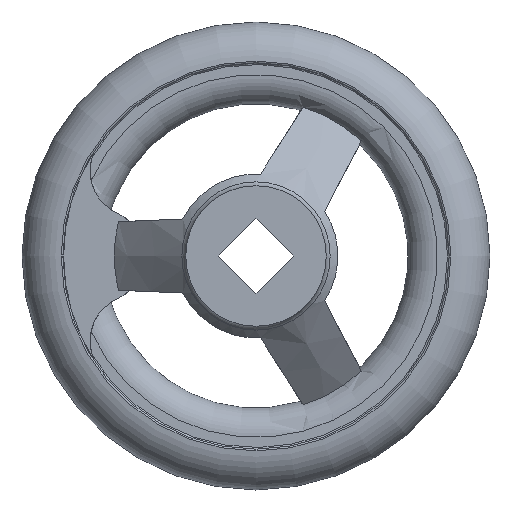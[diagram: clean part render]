
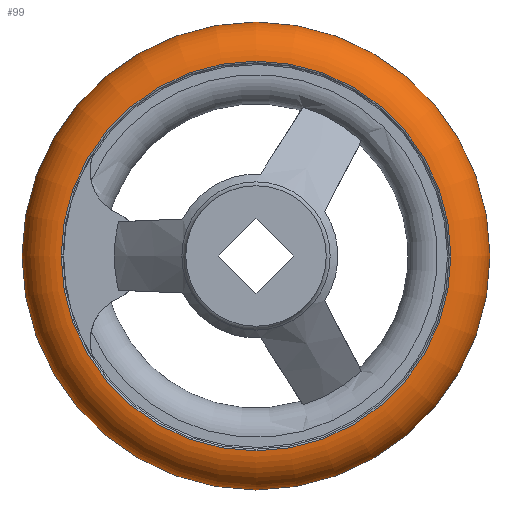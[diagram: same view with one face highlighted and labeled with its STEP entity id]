
A CAD part, left-side view. The second image highlights one B-rep face of the part: STEP entity #99.
In plain terms, the highlighted toroidal (fillet/blend) face has major radius 32.994 mm and minor radius 7.006 mm.
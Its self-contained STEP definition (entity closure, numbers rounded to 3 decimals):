
#99 = ADVANCED_FACE( '', ( #179, #180, #181 ), #182, .T. );
#179 = FACE_BOUND( '', #292, .T. );
#180 = FACE_OUTER_BOUND( '', #293, .T. );
#181 = FACE_OUTER_BOUND( '', #294, .T. );
#182 = TOROIDAL_SURFACE( '', #295, 32.994, 7.006 );
#292 = VERTEX_LOOP( '', #582 );
#293 = EDGE_LOOP( '', ( #583 ) );
#294 = EDGE_LOOP( '', ( #584 ) );
#295 = AXIS2_PLACEMENT_3D( '', #585, #586, #587 );
#582 = VERTEX_POINT( '', #789 );
#583 = ORIENTED_EDGE( '', *, *, #790, .T. );
#584 = ORIENTED_EDGE( '', *, *, #791, .F. );
#585 = CARTESIAN_POINT( '', ( 22., 0., 0. ) );
#586 = DIRECTION( '', ( 1., 0., 0. ) );
#587 = DIRECTION( '', ( 0., 1., 0. ) );
#789 = CARTESIAN_POINT( '', ( 22., 40., 0. ) );
#790 = EDGE_CURVE( '', #950, #950, #951, .T. );
#791 = EDGE_CURVE( '', #952, #952, #953, .T. );
#950 = VERTEX_POINT( '', #1433 );
#951 = CIRCLE( '', #1434, 33.292 );
#952 = VERTEX_POINT( '', #1435 );
#953 = CIRCLE( '', #1436, 33.292 );
#1433 = CARTESIAN_POINT( '', ( 15., 33.292, 0. ) );
#1434 = AXIS2_PLACEMENT_3D( '', #1584, #1585, #1586 );
#1435 = CARTESIAN_POINT( '', ( 29., 33.292, 0. ) );
#1436 = AXIS2_PLACEMENT_3D( '', #1587, #1588, #1589 );
#1584 = CARTESIAN_POINT( '', ( 15., 0., 0. ) );
#1585 = DIRECTION( '', ( 1., 0., 0. ) );
#1586 = DIRECTION( '', ( 0., 1., 0. ) );
#1587 = CARTESIAN_POINT( '', ( 29., 0., 0. ) );
#1588 = DIRECTION( '', ( 1., 0., 0. ) );
#1589 = DIRECTION( '', ( 0., 1., 0. ) );
